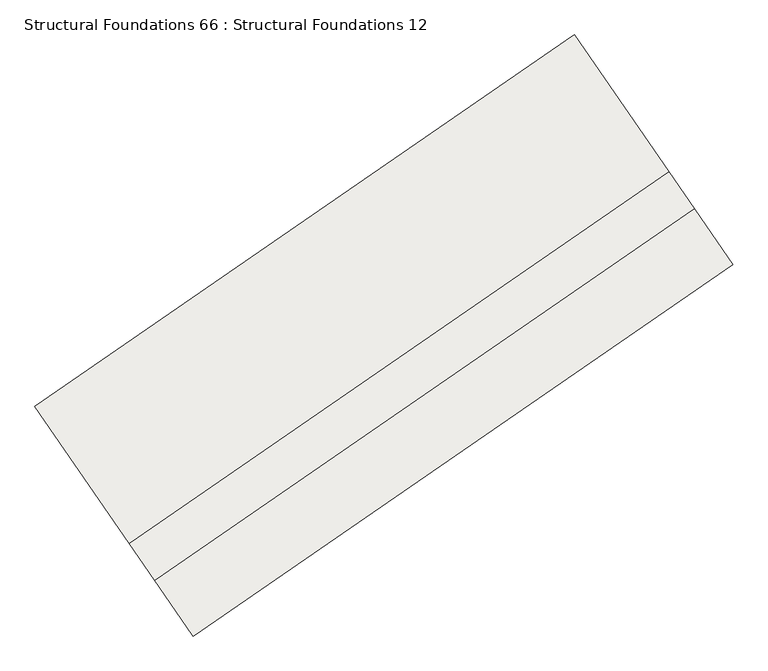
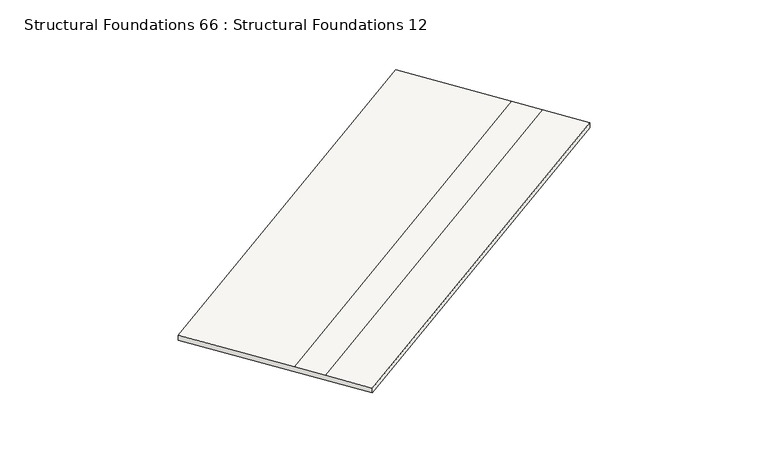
"""IFC4 building model written with IfcOpenShell, lengths in millimetres: slab geometry, Structural Foundations 66 : Structural Foundations 12."""

from ifc_helpers import new_model, si_unit, origin, place, context, project, spatial, faceted_brep, source, transform, mapped, element, save


def structural_foundations_66_structural_foundations_12_38ca47bf(model_context):
    return source(origin(), model_context, "Body", "Brep", [
        faceted_brep([(-317597.3909502, -423159.8882215, 634117.9999997), (-317086.8493361, -423901.0678634, 634117.9999996), (-317086.8493361, -423901.0678634, 634017.9999996), (-319185.742637, -420853.9960048, 634018.0000001), (-319185.742637, -420853.9960048, 634118.0000001), (-317934.9156831, -422669.8861263, 634117.9999998), (-324762.1274826, -428095.1238209, 634044.9999997), (-325099.6522155, -427605.1217257, 634044.9999998), (-326350.4791694, -425789.2316042, 634045.0000001), (-326350.4791694, -425789.2316042, 633945.0000001), (-324251.5858685, -428836.3034628, 633944.9999995), (-324251.5858685, -428836.3034628, 634044.9999995)], [[[0, 1, 2, 3, 4, 5]], [[6, 7, 8, 9, 10, 11]], [[8, 7, 5, 4]], [[7, 6, 0, 5]], [[6, 11, 1, 0]], [[11, 10, 2, 1]], [[10, 9, 3, 2]], [[9, 8, 4, 3]]]),
    ])


if __name__ == "__main__":
    model = new_model("IFC4")
    model_context = context("Model", 3, world=origin())
    ifc_project = project(units=[si_unit("LENGTHUNIT", "METRE", prefix="MILLI")], contexts=[model_context])
    site = spatial("IfcSite", under=ifc_project)
    building = spatial("IfcBuilding", under=site)
    placement = place(None, origin())
    structural_foundations_66_structural_foundations_12_shape = structural_foundations_66_structural_foundations_12_38ca47bf(model_context)
    element("IfcSlab", 1, ObjectType="Structural Foundations 66 : Structural Foundations 12", at=placement, inside=building, context=model_context, shape_type="MappedRepresentation", body=[
        mapped(structural_foundations_66_structural_foundations_12_shape, transform((0.0, 0.0, 0.0), x_axis=(1.0, 0.0, 0.0), y_axis=(0.0, 1.0, 0.0), z_axis=(0.0, 0.0, 1.0))),
    ])
    save(model, "model.ifc")
